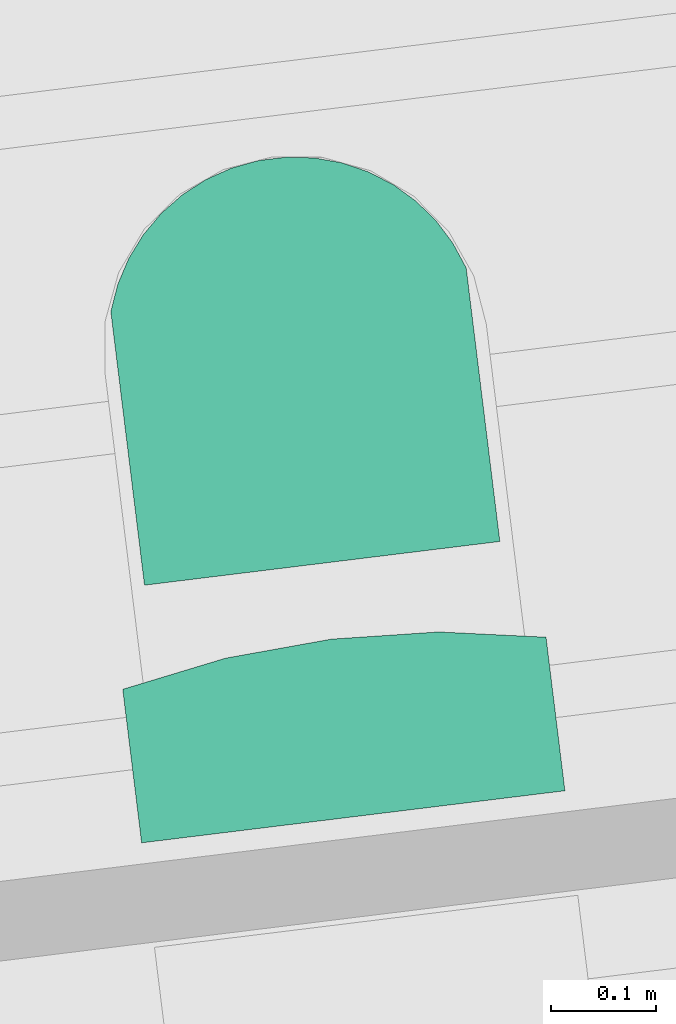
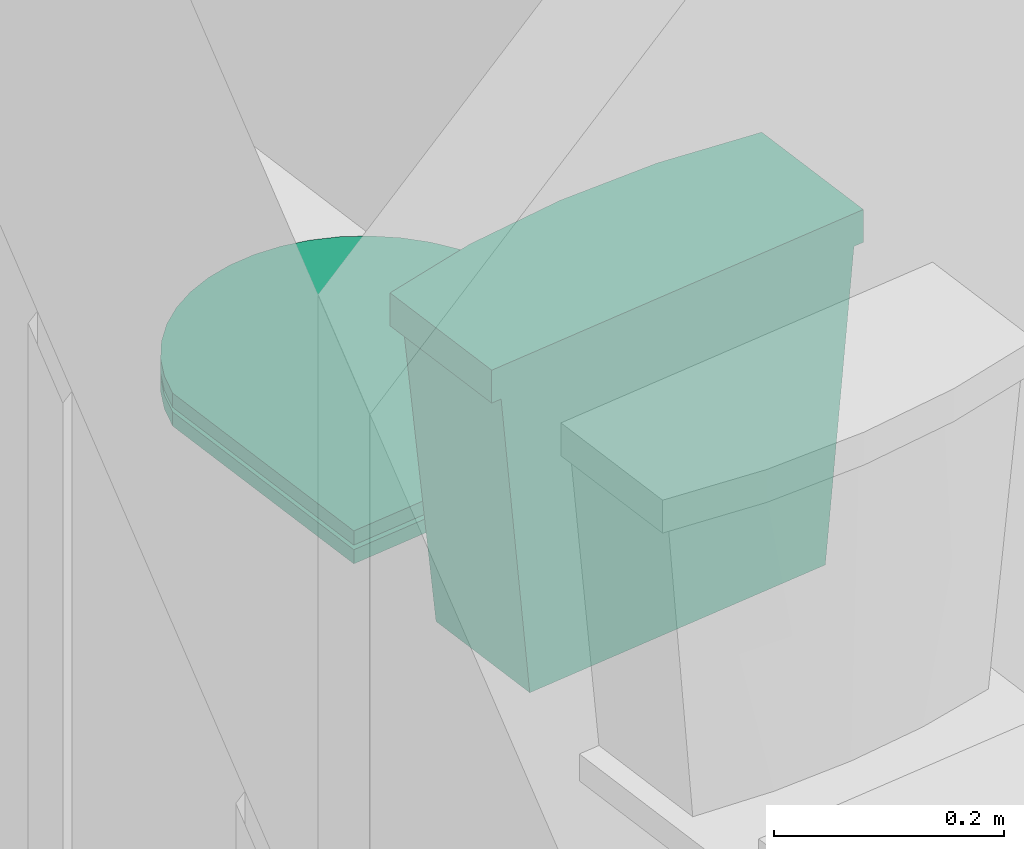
# One storey, part 52 of 75: 2 flow terminals.
"""IFC2X3 building model written with IfcOpenShell, lengths in metres."""

from ifc_helpers import new_model, entity, si_unit, converted_unit, derived_unit, direction, frame, frame_2d, origin, place, context, subcontext, project, spatial, polyline, circle_curve, parameter, trimmed, segment, composite_curve, outline, extrude, faceted_brep, source, transform, mapped, material, type_object, type_shapes, element, save


model = new_model("IFC2X3")

# Units and contexts
model_context = context("Model", 3, precision=1e-05, world=origin(), true_north=direction((6.123031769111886e-17, 1.0)))
body_context = subcontext(model_context, "Body", "Model", "MODEL_VIEW")
ifc_project = project(units=[si_unit("LENGTHUNIT", "METRE"), si_unit("AREAUNIT", "SQUARE_METRE"), si_unit("VOLUMEUNIT", "CUBIC_METRE"), converted_unit("PLANEANGLEUNIT", "DEGREE", entity("IfcRatioMeasure", 0.017453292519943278), si_unit("PLANEANGLEUNIT", "RADIAN"), dimensions=[0, 0, 0, 0, 0, 0, 0]), si_unit("MASSUNIT", "GRAM", prefix="KILO"), derived_unit("MASSDENSITYUNIT", [(si_unit("MASSUNIT", "GRAM", prefix="KILO"), 1), (si_unit("LENGTHUNIT", "METRE"), -3)]), derived_unit("IONCONCENTRATIONUNIT", [(si_unit("MASSUNIT", "GRAM", prefix="KILO"), 1), (si_unit("LENGTHUNIT", "METRE"), -3)]), derived_unit("MOMENTOFINERTIAUNIT", [(si_unit("LENGTHUNIT", "METRE"), 4)]), si_unit("TIMEUNIT", "SECOND"), si_unit("FREQUENCYUNIT", "HERTZ"), si_unit("THERMODYNAMICTEMPERATUREUNIT", "DEGREE_CELSIUS"), derived_unit("THERMALTRANSMITTANCEUNIT", [(si_unit("MASSUNIT", "GRAM", prefix="KILO"), 1), (si_unit("THERMODYNAMICTEMPERATUREUNIT", "KELVIN"), -1), (si_unit("TIMEUNIT", "SECOND"), -3)]), derived_unit("THERMALCONDUCTANCEUNIT", [(si_unit("MASSUNIT", "GRAM", prefix="KILO"), 1), (si_unit("THERMODYNAMICTEMPERATUREUNIT", "KELVIN"), -1), (si_unit("TIMEUNIT", "SECOND"), -3), (si_unit("LENGTHUNIT", "METRE"), 1)]), derived_unit("VOLUMETRICFLOWRATEUNIT", [(si_unit("LENGTHUNIT", "METRE"), 3), (si_unit("TIMEUNIT", "SECOND"), -1)]), derived_unit("MASSFLOWRATEUNIT", [(si_unit("MASSUNIT", "GRAM", prefix="KILO"), 1), (si_unit("TIMEUNIT", "SECOND"), -1)]), derived_unit("ROTATIONALFREQUENCYUNIT", [(si_unit("TIMEUNIT", "SECOND"), -1)]), si_unit("ELECTRICCURRENTUNIT", "AMPERE"), si_unit("ELECTRICVOLTAGEUNIT", "VOLT"), si_unit("POWERUNIT", "WATT"), si_unit("FORCEUNIT", "NEWTON", prefix="KILO"), si_unit("ILLUMINANCEUNIT", "LUX"), si_unit("LUMINOUSFLUXUNIT", "LUMEN"), si_unit("LUMINOUSINTENSITYUNIT", "CANDELA"), derived_unit("USERDEFINED", [(si_unit("MASSUNIT", "GRAM", prefix="KILO"), -1), (si_unit("LENGTHUNIT", "METRE"), -2), (si_unit("TIMEUNIT", "SECOND"), 3), (si_unit("LUMINOUSFLUXUNIT", "LUMEN"), 1)]), derived_unit("USERDEFINED", [(si_unit("MASSUNIT", "GRAM", prefix="KILO"), 1), (si_unit("TIMEUNIT", "SECOND"), -3), (si_unit("LENGTHUNIT", "METRE"), 3), (si_unit("ELECTRICCURRENTUNIT", "AMPERE"), -2)]), derived_unit("SOUNDPOWERUNIT", [(si_unit("MASSUNIT", "GRAM", prefix="KILO"), 1), (si_unit("TIMEUNIT", "SECOND"), -3), (si_unit("LENGTHUNIT", "METRE"), 2)]), derived_unit("SOUNDPRESSUREUNIT", [(si_unit("MASSUNIT", "GRAM", prefix="KILO"), 1), (si_unit("LENGTHUNIT", "METRE"), -1), (si_unit("TIMEUNIT", "SECOND"), -2)]), derived_unit("LINEARVELOCITYUNIT", [(si_unit("LENGTHUNIT", "METRE"), 1), (si_unit("TIMEUNIT", "SECOND"), -1)]), si_unit("PRESSUREUNIT", "PASCAL"), derived_unit("USERDEFINED", [(si_unit("MASSUNIT", "GRAM", prefix="KILO"), 1), (si_unit("LENGTHUNIT", "METRE"), -2), (si_unit("TIMEUNIT", "SECOND"), -2)]), derived_unit("LINEARFORCEUNIT", [(si_unit("MASSUNIT", "GRAM", prefix="KILO"), 1), (si_unit("TIMEUNIT", "SECOND"), -2)]), derived_unit("PLANARFORCEUNIT", [(si_unit("MASSUNIT", "GRAM", prefix="KILO"), 1), (si_unit("LENGTHUNIT", "METRE"), -1), (si_unit("TIMEUNIT", "SECOND"), -2)]), derived_unit("SPECIFICHEATCAPACITYUNIT", [(si_unit("THERMODYNAMICTEMPERATUREUNIT", "KELVIN"), -1), (si_unit("LENGTHUNIT", "METRE"), 2), (si_unit("TIMEUNIT", "SECOND"), -2)]), derived_unit("HEATINGVALUEUNIT", [(si_unit("LENGTHUNIT", "METRE"), 2), (si_unit("TIMEUNIT", "SECOND"), -2)]), derived_unit("VAPORPERMEABILITYUNIT", [(si_unit("LENGTHUNIT", "METRE"), -1), (si_unit("TIMEUNIT", "SECOND"), 1)]), derived_unit("DYNAMICVISCOSITYUNIT", [(si_unit("MASSUNIT", "GRAM", prefix="KILO"), 1), (si_unit("TIMEUNIT", "SECOND"), -1), (si_unit("LENGTHUNIT", "METRE"), -1)]), derived_unit("THERMALEXPANSIONCOEFFICIENTUNIT", [(si_unit("THERMODYNAMICTEMPERATUREUNIT", "KELVIN"), -1)]), derived_unit("MODULUSOFELASTICITYUNIT", [(si_unit("MASSUNIT", "GRAM", prefix="KILO"), 1), (si_unit("LENGTHUNIT", "METRE"), -1), (si_unit("TIMEUNIT", "SECOND"), -2)]), derived_unit("ISOTHERMALMOISTURECAPACITYUNIT", [(si_unit("LENGTHUNIT", "METRE"), 3), (si_unit("MASSUNIT", "GRAM", prefix="KILO"), -1)]), derived_unit("MOISTUREDIFFUSIVITYUNIT", [(si_unit("TIMEUNIT", "SECOND"), -1), (si_unit("LENGTHUNIT", "METRE"), 2)])], contexts=[model_context])

# Site, building, storey
site_placement = place(None, origin())
site = spatial("IfcSite", under=ifc_project, at=site_placement, Name="Default", CompositionType="ELEMENT")
building_placement = place(site_placement, origin())
building = spatial("IfcBuilding", under=site, at=building_placement, Name="Projeto", CompositionType="ELEMENT")
storey_placement = place(building_placement, origin())
storey = spatial("IfcBuildingStorey", under=building, at=storey_placement, Name="Nível 1", CompositionType="ELEMENT", Elevation=0.0)

# Flow terminals
ifc_material_1 = material(Name="Deca GE17 Branco Gelo Poliéster")
distribution_element_type_1 = type_object("IfcDistributionElementType", Name="Deca_Shared_Assento_P.707:Assento termofixo slow close e easy clean - Branco GE17", material=ifc_material_1)
shared_shape_1 = source(origin(), body_context, "Body", "SweptSolid", [
    extrude(outline(composite_curve([segment(polyline([(-0.1308785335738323, -0.16999999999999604), (0.13087853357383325, -0.16999999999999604)]), True, "CONTINUOUS"), segment(polyline([(0.13087853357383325, -0.16999999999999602), (0.13087853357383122, 0.1699999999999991)]), True, "CONTINUOUS"), segment(polyline([(0.13087853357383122, 0.1699999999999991), (-0.13087853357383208, 0.16999999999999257)]), True, "CONTINUOUS"), segment(trimmed(circle_curve(frame_2d((-0.07883300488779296, 0.0), x_axis=(0.0, -1.0)), 0.1777884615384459), [parameter(197.02197774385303)], [parameter(342.97802225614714)], True, "PARAMETER"), True, "CONTINUOUS")], self_intersect=False)), frame((0.0, 0.020000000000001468, 0.13087853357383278), z_axis=(0.0, 1.0, 0.0), x_axis=(0.0, 0.0, -1.0)), (0.0, 0.0, 1.0), 0.014999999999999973),
    extrude(outline(composite_curve([segment(trimmed(circle_curve(frame_2d((0.0, -0.07883300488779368), x_axis=(1.0, 0.0)), 0.1777884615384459), [parameter(197.02197774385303)], [parameter(342.9780222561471)], True, "PARAMETER"), True, "CONTINUOUS"), segment(polyline([(0.1699999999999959, -0.13087853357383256), (0.1699999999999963, 0.130878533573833)]), True, "CONTINUOUS"), segment(polyline([(0.16999999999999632, 0.13087853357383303), (-0.1699999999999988, 0.13087853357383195)]), True, "CONTINUOUS"), segment(polyline([(-0.16999999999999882, 0.13087853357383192), (-0.16999999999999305, -0.1308785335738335)]), True, "CONTINUOUS")], self_intersect=False)), frame((0.0, 0.0, 0.13087853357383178), z_axis=(0.0, 1.0, 0.0), x_axis=(1.0, 0.0, 0.0)), (0.0, 0.0, 1.0), 0.014999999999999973),
])
type_shapes(distribution_element_type_1, [shared_shape_1])
flow_terminal_1_placement = place(storey_placement, frame((-17.911044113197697, 29.06649808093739, -2.1700000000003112), z_axis=(-0.12215242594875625, 0.9925113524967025, 0.0), x_axis=(-0.9925113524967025, -0.12215242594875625, 0.0)))
element("IfcFlowTerminal", 1, at=flow_terminal_1_placement, inside=storey, type_object=distribution_element_type_1, material=ifc_material_1, Name="Deca_Shared_Assento_P.707:Assento termofixo slow close e easy clean - Branco GE17", ObjectType="Deca_Shared_Assento_P.707:Assento termofixo slow close e easy clean - Branco GE17", context=body_context, shape_type="MappedRepresentation", body=[
    mapped(shared_shape_1, transform((0.0, 0.0, 0.0), scale=1.0)),
])
ifc_material_2 = material(Name="Deca GE17 Branco Gelo Cerâmica")
distribution_element_type_2 = type_object("IfcDistributionElementType", Name="Deca_Shared_Caixa Acoplada_P.707:Dual Flux 3 lpf / 6 lpf - Branco GE17", material=ifc_material_2)
shared_shape_2 = source(origin(), body_context, "Body", "Brep", [
    faceted_brep([(0.16104117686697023, 0.0, 0.13556284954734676), (0.08089912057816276, 0.0, 0.14721831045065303), (0.0, 0.0, 0.15095076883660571), (-0.08089912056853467, 0.0, 0.1472183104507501), (-0.16104117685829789, 0.0, 0.1355628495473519), (-0.16104117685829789, 0.0, 2.424032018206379e-06), (0.1610411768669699, 0.0, 2.424032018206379e-06), (0.19226276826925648, 0.3250888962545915, 2.424032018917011e-06), (-0.19226276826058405, 0.3250888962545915, 2.424032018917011e-06), (-0.19226276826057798, 0.3250888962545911, 0.14159522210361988), (-0.09670881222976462, 0.32508889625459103, 0.15729507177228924), (0.0, 0.32508889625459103, 0.16223970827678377), (0.09670881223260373, 0.32508889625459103, 0.15729507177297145), (0.19226276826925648, 0.3250888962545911, 0.1415952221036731), (-0.1725797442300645, 0.12014314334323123, 0.13779223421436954), (-0.057231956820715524, 0.162544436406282, 0.15487758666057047), (-0.11135092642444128, 0.16254444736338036, 0.1496496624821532), (0.0, 0.12014314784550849, 0.1551228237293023), (0.12025459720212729, 0.16254443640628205, 0.14845002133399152), (0.06619470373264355, 0.16254444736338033, 0.1542550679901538), (0.17257974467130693, 0.12014314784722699, 0.1377922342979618)], [[[0, 1, 2, 3, 4, 5, 6]], [[7, 8, 9, 10, 11, 12, 13]], [[8, 5, 4, 14, 9]], [[10, 15, 11]], [[4, 16, 9, 14]], [[3, 2, 15]], [[16, 3, 15]], [[11, 15, 2, 17]], [[16, 15, 10]], [[9, 16, 10]], [[4, 3, 16]], [[12, 18, 13]], [[2, 19, 11, 17]], [[1, 0, 18]], [[19, 1, 18]], [[13, 18, 0, 20]], [[19, 18, 12]], [[11, 19, 12]], [[2, 1, 19]], [[6, 7, 13, 20, 0]], [[5, 8, 7, 6]]]),
    faceted_brep([(-0.10192093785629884, 0.3600000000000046, 0.1643272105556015), (-2.4240372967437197e-06, 0.3600000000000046, 0.16999999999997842), (0.10191608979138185, 0.3600000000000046, 0.16432721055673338), (0.20249757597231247, 0.3600000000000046, 0.1469223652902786), (0.20249757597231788, 0.36000000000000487, 0.0), (-0.20250242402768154, 0.36000000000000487, 0.0), (-0.20250242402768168, 0.3600000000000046, 0.14692236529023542), (-0.20250242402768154, 0.3250888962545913, 0.0), (0.20249757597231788, 0.3250888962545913, 0.0), (0.20249757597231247, 0.32508889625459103, 0.14692236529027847), (0.10191608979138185, 0.32508889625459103, 0.16432721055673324), (-2.4240372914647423e-06, 0.32508889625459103, 0.16999999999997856), (-0.10192093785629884, 0.32508889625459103, 0.16432721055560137), (-0.20250242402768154, 0.32508889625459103, 0.14692236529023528)], [[[0, 1, 2, 3, 4, 5, 6]], [[7, 8, 9, 10, 11, 12, 13]], [[6, 5, 7, 13]], [[13, 12, 0, 6]], [[0, 12, 11, 1]], [[11, 10, 2, 1]], [[2, 10, 9, 3]], [[4, 3, 9, 8]], [[5, 4, 8, 7]]]),
])
type_shapes(distribution_element_type_2, [shared_shape_2])
flow_terminal_2_placement = place(storey_placement, frame((-17.8815139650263, 28.82580175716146, -2.174997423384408), z_axis=(-0.12215242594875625, 0.9925113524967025, 0.0), x_axis=(-0.9925113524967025, -0.12215242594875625, 0.0)))
element("IfcFlowTerminal", 2, at=flow_terminal_2_placement, inside=storey, type_object=distribution_element_type_2, material=ifc_material_2, Name="Deca_Shared_Caixa Acoplada_P.707:Dual Flux 3 lpf / 6 lpf - Branco GE17", ObjectType="Deca_Shared_Caixa Acoplada_P.707:Dual Flux 3 lpf / 6 lpf - Branco GE17", context=body_context, shape_type="MappedRepresentation", body=[
    mapped(shared_shape_2, transform((0.0, 0.0, 0.0), scale=1.0)),
])

save(model, "model.ifc")
